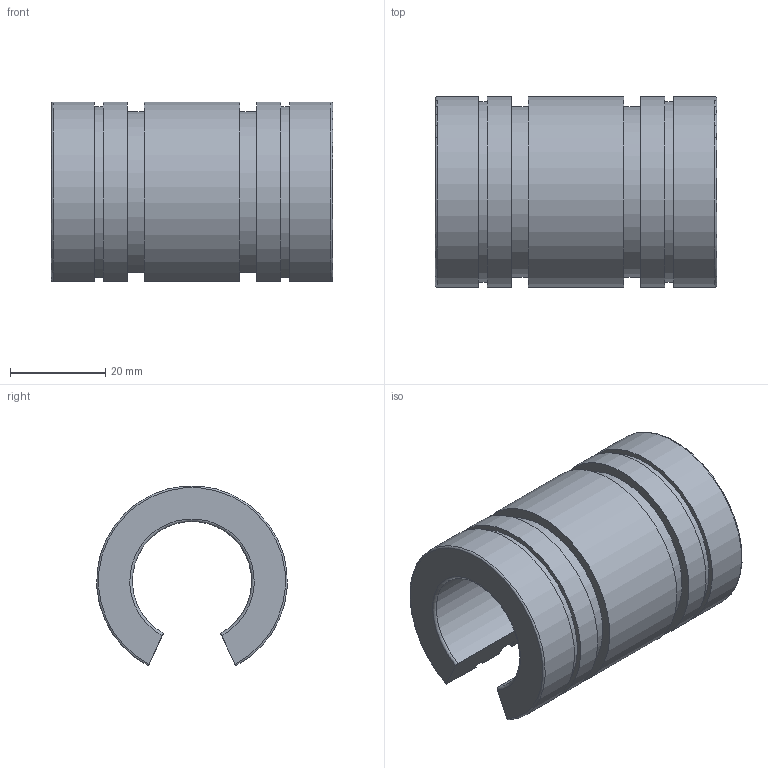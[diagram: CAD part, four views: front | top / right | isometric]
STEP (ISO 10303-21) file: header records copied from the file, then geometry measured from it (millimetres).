
FILE_DESCRIPTION(('STEP AP203'),'1');
FILE_NAME('//192.168.1.1/share/s-4 技術開発/s-4-4_CAD/s-4-4-3_見直し済み/PBC LINEAR修正済み/FJN/FJN_TOP/FJN25.step','2022-03-24T07:43:33',(' '),(' '),'Spatial InterOp 3D',' ',' ');
FILE_SCHEMA(('CONFIG_CONTROL_DESIGN'));
Length unit declared in the file: millimetre
Products named in the file (1): 1
Bounding box: 59 x 39.92 x 37.7 mm (x, y, z)
Volume: 36308.4 mm3; surface area: 13413.6 mm2
Topology: 1 solids, 1 shells, 26 faces, 72 edges, 48 vertices
Faces by surface type: plane 12, cylinder 10, torus 4
Entity records: 908 total; most frequent: CARTESIAN_POINT 187, ORIENTED_EDGE 144, DIRECTION 142, EDGE_CURVE 72, AXIS2_PLACEMENT_3D 51, VERTEX_POINT 48, LINE 40, VECTOR 40
